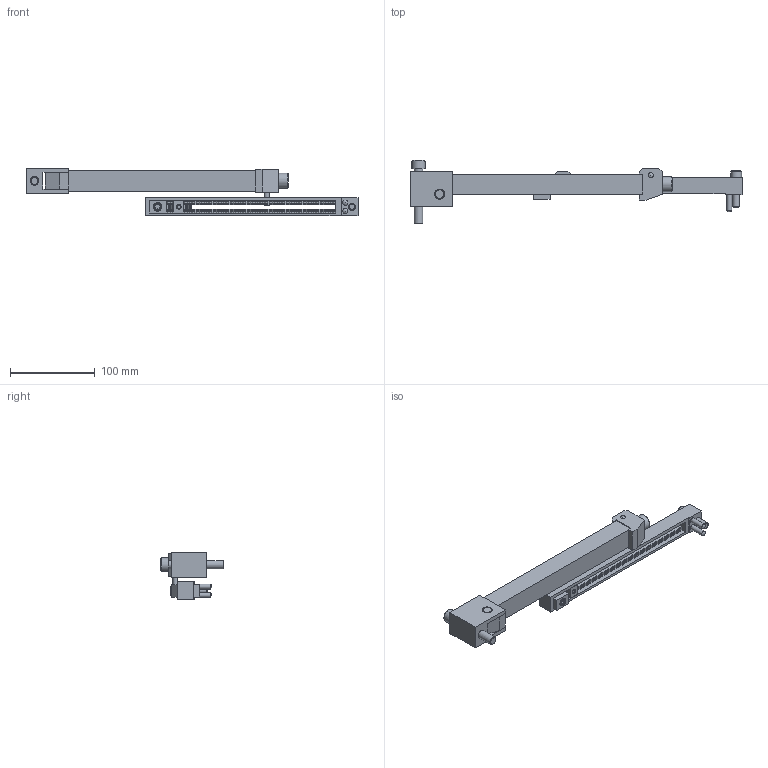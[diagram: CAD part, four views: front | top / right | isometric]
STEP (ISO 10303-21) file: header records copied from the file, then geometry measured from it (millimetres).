
FILE_DESCRIPTION( ( 'STEP AP214' ), '1' );
FILE_NAME( 'p:/temp/worker_1/temp/exporttempdir_3888_189_jDtGt/format_0/BOX250R.stp', '2021-02-11T19:29:59', ( 'License CC BY-ND 4.0' ), ( 'CADENAS' ), ' ', 'PARTsolutions', ' ' );
FILE_SCHEMA( ( 'AUTOMOTIVE_DESIGN { 1 0 10303 214 1 1 1 1 }' ) );
Length unit declared in the file: millimetre
Products named in the file (18): BOX250R; _ZH90/3_head; _ZH90/3_screw1; _ZH90/3_hand; _ZH90/3_screw2; _ZH90/3_he; _ZH90/3_screw3; _ZH90/3_stift1; _ZH90/3_stift2; _ZH90/06_body; _M8-5; _ST2; _ZH90/06_foot1u; _ZH90/06_foot1d; _M5-1; _ZH90/06_foot2u; _ZH90/06_foot2d; _M5-2
Assembly tree (18 placements, depth 2):
  BOX250R
    _ZH90/3_head
    _ZH90/3_screw1
    _ZH90/3_hand
    _ZH90/3_screw2
    _ZH90/3_he
    _ZH90/3_screw3
    _ZH90/3_stift1
    _ZH90/3_stift2
    _ZH90/06_body
    _M8-5
    _ST2  x2
    _ZH90/06_foot1u
    _ZH90/06_foot1d
    _M5-1
    _ZH90/06_foot2u
    _ZH90/06_foot2d
    _M5-2
Bounding box: 391 x 75 x 56.5 mm (x, y, z)
Volume: 282168.9 mm3; surface area: 96262.2 mm2
Topology: 18 solids, 18 shells, 1162 faces, 3346 edges, 2223 vertices
Faces by surface type: plane 1107, cylinder 32, cone 17, sphere 6
Full cylindrical faces by diameter (mm): 4.134 x1, 5 x3, 5.5 x4, 6 x6, 8 x1, 8.4 x1, 8.5 x2, 10 x3, 10.106 x1, 10.5 x1, 12 x5, 13 x2, 16 x1, 18 x1
Entity records: 46622 total; most frequent: CARTESIAN_POINT 6718, ORIENTED_EDGE 6552, DIRECTION 5744, EDGE_CURVE 3276, LINE 3162, VECTOR 3162, VERTEX_POINT 2213, AXIS2_PLACEMENT_3D 1291
